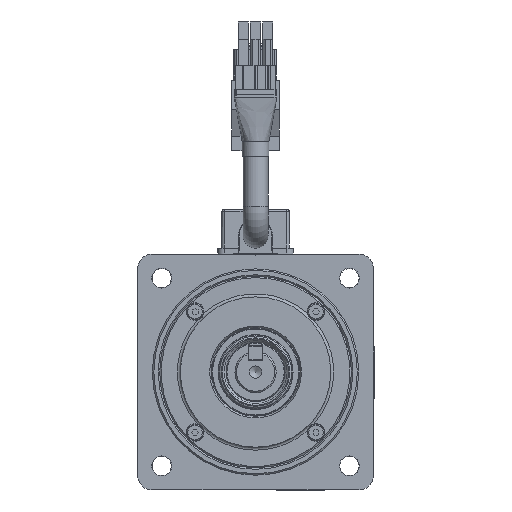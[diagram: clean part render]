
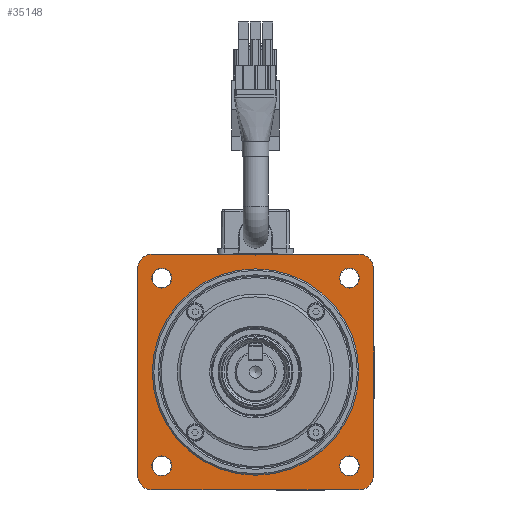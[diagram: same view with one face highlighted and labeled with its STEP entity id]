
A CAD part, front view. The second image highlights one B-rep face of the part: STEP entity #35148.
In plain terms, the highlighted planar face has unit normal (0, -1, 0).
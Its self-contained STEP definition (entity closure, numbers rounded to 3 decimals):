
#2485=LINE('',#55185,#5749);
#2556=LINE('',#57881,#5820);
#2561=LINE('',#57889,#5825);
#2562=LINE('',#57893,#5826);
#2563=LINE('',#57897,#5827);
#2568=LINE('',#57905,#5832);
#2579=LINE('',#57940,#5843);
#2580=LINE('',#57944,#5844);
#2581=LINE('',#57946,#5845);
#2582=LINE('',#57948,#5846);
#2583=LINE('',#57952,#5847);
#2584=LINE('',#57954,#5848);
#5749=VECTOR('',#42832,1000.);
#5820=VECTOR('',#43501,1000.);
#5825=VECTOR('',#43508,1000.);
#5826=VECTOR('',#43511,1000.);
#5827=VECTOR('',#43514,1000.);
#5832=VECTOR('',#43521,1000.);
#5843=VECTOR('',#43578,1000.);
#5844=VECTOR('',#43581,1000.);
#5845=VECTOR('',#43584,1000.);
#5846=VECTOR('',#43587,1000.);
#5847=VECTOR('',#43590,1000.);
#5848=VECTOR('',#43593,1000.);
#11564=ORIENTED_EDGE('',*,*,#19789,.F.);
#11565=ORIENTED_EDGE('',*,*,#19700,.F.);
#11566=ORIENTED_EDGE('',*,*,#19709,.F.);
#11567=ORIENTED_EDGE('',*,*,#19728,.F.);
#11568=ORIENTED_EDGE('',*,*,#19718,.F.);
#11569=ORIENTED_EDGE('',*,*,#19748,.T.);
#11570=ORIENTED_EDGE('',*,*,#19768,.T.);
#11571=ORIENTED_EDGE('',*,*,#19406,.T.);
#11572=ORIENTED_EDGE('',*,*,#19765,.T.);
#11573=ORIENTED_EDGE('',*,*,#19762,.T.);
#11574=ORIENTED_EDGE('',*,*,#19766,.T.);
#11575=ORIENTED_EDGE('',*,*,#19757,.T.);
#11576=ORIENTED_EDGE('',*,*,#19783,.F.);
#11577=ORIENTED_EDGE('',*,*,#19784,.T.);
#11578=ORIENTED_EDGE('',*,*,#19781,.F.);
#11579=ORIENTED_EDGE('',*,*,#19755,.T.);
#11580=ORIENTED_EDGE('',*,*,#19779,.F.);
#11581=ORIENTED_EDGE('',*,*,#19780,.T.);
#11582=ORIENTED_EDGE('',*,*,#19777,.F.);
#11583=ORIENTED_EDGE('',*,*,#19753,.T.);
#11584=ORIENTED_EDGE('',*,*,#19767,.T.);
#19406=EDGE_CURVE('',#23911,#23910,#2485,.T.);
#19700=EDGE_CURVE('',#24111,#24111,#26949,.F.);
#19709=EDGE_CURVE('',#24119,#24119,#26955,.F.);
#19718=EDGE_CURVE('',#24127,#24127,#26961,.F.);
#19728=EDGE_CURVE('',#24137,#24137,#26967,.F.);
#19748=EDGE_CURVE('',#24148,#24147,#2556,.T.);
#19753=EDGE_CURVE('',#24150,#24149,#2561,.T.);
#19755=EDGE_CURVE('',#24152,#24151,#2562,.T.);
#19757=EDGE_CURVE('',#24154,#24153,#2563,.T.);
#19762=EDGE_CURVE('',#24156,#24155,#2568,.T.);
#19765=EDGE_CURVE('',#23910,#24156,#26975,.F.);
#19766=EDGE_CURVE('',#24155,#24154,#26976,.F.);
#19767=EDGE_CURVE('',#24149,#24148,#26977,.F.);
#19768=EDGE_CURVE('',#24147,#23911,#26978,.F.);
#19777=EDGE_CURVE('',#24150,#24157,#2579,.F.);
#19779=EDGE_CURVE('',#24158,#24151,#2580,.T.);
#19780=EDGE_CURVE('',#24158,#24157,#2581,.T.);
#19781=EDGE_CURVE('',#24152,#24159,#2582,.F.);
#19783=EDGE_CURVE('',#24160,#24153,#2583,.T.);
#19784=EDGE_CURVE('',#24160,#24159,#2584,.T.);
#19789=EDGE_CURVE('',#24165,#24165,#26985,.T.);
#23910=VERTEX_POINT('',#55184);
#23911=VERTEX_POINT('',#55186);
#24111=VERTEX_POINT('',#57783);
#24119=VERTEX_POINT('',#57802);
#24127=VERTEX_POINT('',#57821);
#24137=VERTEX_POINT('',#57843);
#24147=VERTEX_POINT('',#57880);
#24148=VERTEX_POINT('',#57882);
#24149=VERTEX_POINT('',#57888);
#24150=VERTEX_POINT('',#57890);
#24151=VERTEX_POINT('',#57892);
#24152=VERTEX_POINT('',#57894);
#24153=VERTEX_POINT('',#57896);
#24154=VERTEX_POINT('',#57898);
#24155=VERTEX_POINT('',#57904);
#24156=VERTEX_POINT('',#57906);
#24157=VERTEX_POINT('',#57941);
#24158=VERTEX_POINT('',#57943);
#24159=VERTEX_POINT('',#57949);
#24160=VERTEX_POINT('',#57951);
#24165=VERTEX_POINT('',#57967);
#26949=CIRCLE('',#37981,3.37);
#26955=CIRCLE('',#37989,3.37);
#26961=CIRCLE('',#37997,3.37);
#26967=CIRCLE('',#38005,3.37);
#26975=CIRCLE('',#38024,5.);
#26976=CIRCLE('',#38026,5.);
#26977=CIRCLE('',#38028,5.);
#26978=CIRCLE('',#38030,5.);
#26985=CIRCLE('',#38058,35.);
#28566=EDGE_LOOP('',(#11564));
#28567=EDGE_LOOP('',(#11565));
#28568=EDGE_LOOP('',(#11566));
#28569=EDGE_LOOP('',(#11567));
#28570=EDGE_LOOP('',(#11568));
#28571=EDGE_LOOP('',(#11569,#11570,#11571,#11572,#11573,#11574,#11575,#11576,
#11577,#11578,#11579,#11580,#11581,#11582,#11583,#11584));
#31340=FACE_BOUND('',#28566,.T.);
#31341=FACE_BOUND('',#28567,.T.);
#31342=FACE_BOUND('',#28568,.T.);
#31343=FACE_BOUND('',#28569,.T.);
#31344=FACE_BOUND('',#28570,.T.);
#31345=FACE_BOUND('',#28571,.T.);
#33499=PLANE('',#38059);
#35148=ADVANCED_FACE('',(#31340,#31341,#31342,#31343,#31344,#31345),#33499,
 .F.);
#37981=AXIS2_PLACEMENT_3D('',#57782,#43401,#43402);
#37989=AXIS2_PLACEMENT_3D('',#57801,#43420,#43421);
#37997=AXIS2_PLACEMENT_3D('',#57820,#43439,#43440);
#38005=AXIS2_PLACEMENT_3D('',#57842,#43459,#43460);
#38024=AXIS2_PLACEMENT_3D('',#57910,#43526,#43527);
#38026=AXIS2_PLACEMENT_3D('',#57912,#43530,#43531);
#38028=AXIS2_PLACEMENT_3D('',#57914,#43534,#43535);
#38030=AXIS2_PLACEMENT_3D('',#57916,#43538,#43539);
#38058=AXIS2_PLACEMENT_3D('',#57966,#43608,#43609);
#38059=AXIS2_PLACEMENT_3D('',#57968,#43610,#43611);
#42832=DIRECTION('',(-1.,0.,0.));
#43401=DIRECTION('',(0.,1.,0.));
#43402=DIRECTION('',(0.,0.,1.));
#43420=DIRECTION('',(0.,1.,0.));
#43421=DIRECTION('',(0.,0.,1.));
#43439=DIRECTION('',(0.,1.,0.));
#43440=DIRECTION('',(0.,0.,1.));
#43459=DIRECTION('',(0.,1.,0.));
#43460=DIRECTION('',(0.,0.,1.));
#43501=DIRECTION('',(0.,0.,1.));
#43508=DIRECTION('',(1.,0.,0.));
#43511=DIRECTION('',(1.,0.,0.));
#43514=DIRECTION('',(1.,0.,0.));
#43521=DIRECTION('',(0.,0.,-1.));
#43526=DIRECTION('',(0.,1.,0.));
#43527=DIRECTION('',(0.,0.,1.));
#43530=DIRECTION('',(0.,1.,0.));
#43531=DIRECTION('',(0.,0.,1.));
#43534=DIRECTION('',(0.,1.,0.));
#43535=DIRECTION('',(0.,0.,1.));
#43538=DIRECTION('',(0.,1.,0.));
#43539=DIRECTION('',(0.,0.,1.));
#43578=DIRECTION('',(0.,0.,-1.));
#43581=DIRECTION('',(0.,0.,-1.));
#43584=DIRECTION('',(1.,0.,0.));
#43587=DIRECTION('',(0.,0.,-1.));
#43590=DIRECTION('',(0.,0.,-1.));
#43593=DIRECTION('',(1.,0.,0.));
#43608=DIRECTION('',(0.,-1.,0.));
#43609=DIRECTION('',(0.,0.,-1.));
#43610=DIRECTION('',(0.,1.,0.));
#43611=DIRECTION('',(0.,0.,1.));
#55184=CARTESIAN_POINT('',(-35.,0.81,40.));
#55185=CARTESIAN_POINT('',(40.,0.81,40.));
#55186=CARTESIAN_POINT('',(35.,0.81,40.));
#57782=CARTESIAN_POINT('',(-31.82,0.81,31.82));
#57783=CARTESIAN_POINT('',(-31.82,0.81,35.19));
#57801=CARTESIAN_POINT('',(31.82,0.81,31.82));
#57802=CARTESIAN_POINT('',(31.82,0.81,35.19));
#57820=CARTESIAN_POINT('',(-31.82,0.81,-31.82));
#57821=CARTESIAN_POINT('',(-31.82,0.81,-28.45));
#57842=CARTESIAN_POINT('',(31.82,0.81,-31.82));
#57843=CARTESIAN_POINT('',(31.82,0.81,-28.45));
#57880=CARTESIAN_POINT('',(40.,0.81,35.));
#57881=CARTESIAN_POINT('',(40.,0.81,-40.));
#57882=CARTESIAN_POINT('',(40.,0.81,-35.));
#57888=CARTESIAN_POINT('',(35.,0.81,-40.));
#57889=CARTESIAN_POINT('',(-40.,0.81,-40.));
#57890=CARTESIAN_POINT('',(18.932,0.81,-40.));
#57892=CARTESIAN_POINT('',(17.068,0.81,-40.));
#57893=CARTESIAN_POINT('',(-40.,0.81,-40.));
#57894=CARTESIAN_POINT('',(-17.068,0.81,-40.));
#57896=CARTESIAN_POINT('',(-18.932,0.81,-40.));
#57897=CARTESIAN_POINT('',(-40.,0.81,-40.));
#57898=CARTESIAN_POINT('',(-35.,0.81,-40.));
#57904=CARTESIAN_POINT('',(-40.,0.81,-35.));
#57905=CARTESIAN_POINT('',(-40.,0.81,40.));
#57906=CARTESIAN_POINT('',(-40.,0.81,35.));
#57910=CARTESIAN_POINT('',(-35.,0.81,35.));
#57912=CARTESIAN_POINT('',(-35.,0.81,-35.));
#57914=CARTESIAN_POINT('',(35.,0.81,-35.));
#57916=CARTESIAN_POINT('',(35.,0.81,35.));
#57940=CARTESIAN_POINT('',(18.932,0.81,-39.9));
#57941=CARTESIAN_POINT('',(18.932,0.81,-39.9));
#57943=CARTESIAN_POINT('',(17.068,0.81,-39.9));
#57944=CARTESIAN_POINT('',(17.068,0.81,-39.9));
#57946=CARTESIAN_POINT('',(18.,0.81,-39.9));
#57948=CARTESIAN_POINT('',(-17.068,0.81,-39.9));
#57949=CARTESIAN_POINT('',(-17.068,0.81,-39.9));
#57951=CARTESIAN_POINT('',(-18.932,0.81,-39.9));
#57952=CARTESIAN_POINT('',(-18.932,0.81,-39.9));
#57954=CARTESIAN_POINT('',(-18.,0.81,-39.9));
#57966=CARTESIAN_POINT('',(0.,0.81,0.));
#57967=CARTESIAN_POINT('',(0.,0.81,-35.));
#57968=CARTESIAN_POINT('',(0.,0.81,35.));
